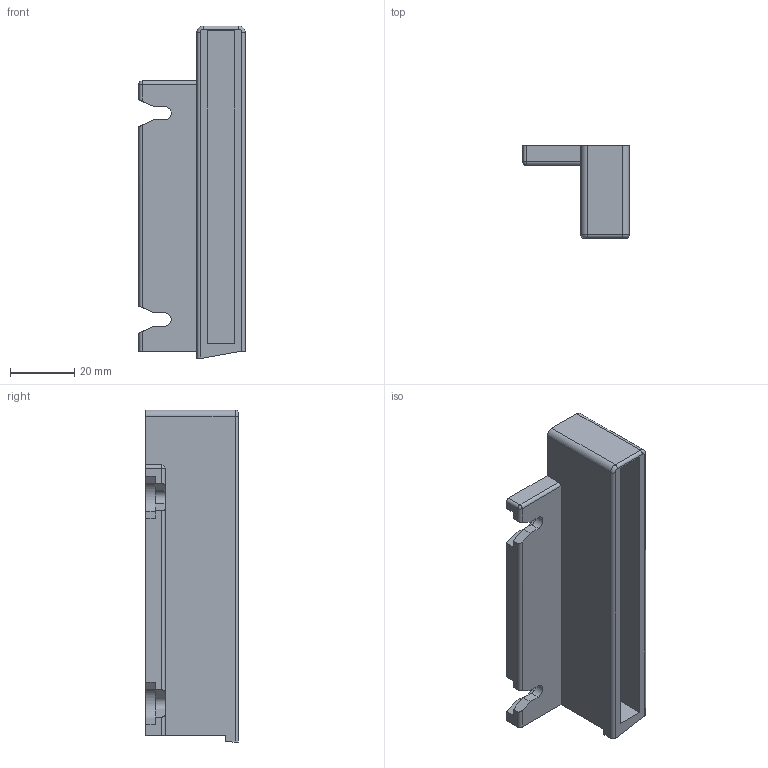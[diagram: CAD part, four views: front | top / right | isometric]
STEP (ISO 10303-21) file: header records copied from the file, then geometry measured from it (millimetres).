
FILE_DESCRIPTION (( 'STEP AP214' ), '1' );
FILE_NAME ('Abdeckkappe_Deluxe_hinten_rechts_HRW_Crystal .step', '2012-12-04T14:10:20', ( 'Grass' ), ( '' ), 'SwSTEP 2.0', 'SolidWorks 2012', '' );
FILE_SCHEMA (( 'AUTOMOTIVE_DESIGN' ));
Length unit declared in the file: millimetre
Products named in the file (1): Abdeckkappe_Deluxe_hinten_rechts_HRW_Crystal 
Bounding box: 33 x 28.75 x 103 mm (x, y, z)
Volume: 43295 mm3; surface area: 14915.8 mm2
Topology: 1 solids, 1 shells, 50 faces, 135 edges, 87 vertices
Faces by surface type: plane 33, cylinder 14, torus 2, sphere 1
Entity records: 1582 total; most frequent: CARTESIAN_POINT 284, ORIENTED_EDGE 268, DIRECTION 258, EDGE_CURVE 134, VECTOR 104, LINE 104, VERTEX_POINT 87, AXIS2_PLACEMENT_3D 77
